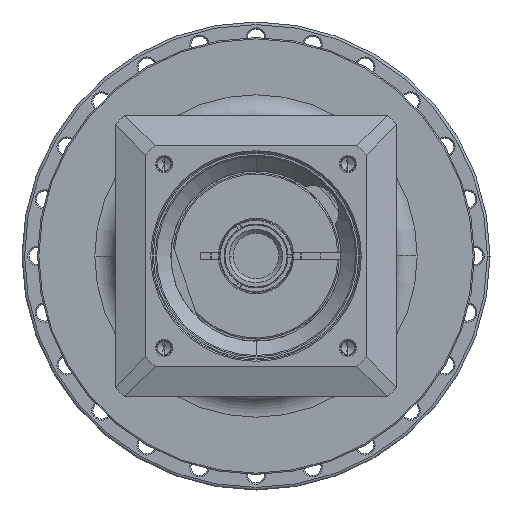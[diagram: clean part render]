
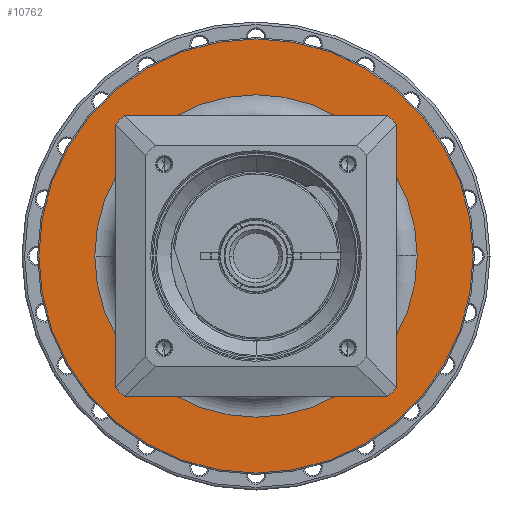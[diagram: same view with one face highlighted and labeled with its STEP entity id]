
A CAD part, left-side view. The second image highlights one B-rep face of the part: STEP entity #10762.
In plain terms, the highlighted planar face has unit normal (-1, 0, 0) as drawn and (1, 0, 0) by its records, which use the part's own axes.
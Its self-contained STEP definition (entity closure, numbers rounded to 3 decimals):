
#10241=CARTESIAN_POINT('',(-19.5,0.,0.));
#10242=DIRECTION('',(-1.,0.,0.));
#10243=DIRECTION('',(0.,-1.,0.));
#10244=AXIS2_PLACEMENT_3D('',#10241,#10242,#10243);
#10246=CARTESIAN_POINT('',(-19.5,0.,0.));
#10247=DIRECTION('',(-1.,0.,0.));
#10248=DIRECTION('',(0.,1.,0.));
#10249=AXIS2_PLACEMENT_3D('',#10246,#10247,#10248);
#10251=CARTESIAN_POINT('',(-19.5,0.,0.));
#10252=DIRECTION('',(-1.,0.,0.));
#10253=DIRECTION('',(0.,-1.,0.));
#10254=AXIS2_PLACEMENT_3D('',#10251,#10252,#10253);
#10256=CARTESIAN_POINT('',(-19.5,0.,0.));
#10257=DIRECTION('',(-1.,0.,0.));
#10258=DIRECTION('',(0.,1.,0.));
#10259=AXIS2_PLACEMENT_3D('',#10256,#10257,#10258);
#10325=CARTESIAN_POINT('',(-19.5,-83.5,0.));
#10326=CARTESIAN_POINT('',(-19.5,83.5,0.));
#10327=VERTEX_POINT('',#10325);
#10328=VERTEX_POINT('',#10326);
#10349=CARTESIAN_POINT('',(-19.5,-62.,0.));
#10350=CARTESIAN_POINT('',(-19.5,62.,0.));
#10351=VERTEX_POINT('',#10349);
#10352=VERTEX_POINT('',#10350);
#10747=CARTESIAN_POINT('',(-19.5,0.,0.));
#10748=DIRECTION('',(1.,0.,0.));
#10749=DIRECTION('',(0.,-1.,0.));
#10750=AXIS2_PLACEMENT_3D('',#10747,#10748,#10749);
#10751=PLANE('',#10750);
#10752=ORIENTED_EDGE('',*,*,#10688,.T.);
#10753=ORIENTED_EDGE('',*,*,#10703,.T.);
#10754=EDGE_LOOP('',(#10752,#10753));
#10755=FACE_OUTER_BOUND('',#10754,.F.);
#10757=ORIENTED_EDGE('',*,*,#10756,.F.);
#10759=ORIENTED_EDGE('',*,*,#10758,.F.);
#10760=EDGE_LOOP('',(#10757,#10759));
#10761=FACE_BOUND('',#10760,.F.);
#10762=ADVANCED_FACE('',(#10755,#10761),#10751,.T.);
#10245=CIRCLE('',#10244,62.);
#10250=CIRCLE('',#10249,62.);
#10255=CIRCLE('',#10254,83.5);
#10260=CIRCLE('',#10259,83.5);
#10688=EDGE_CURVE('',#10327,#10328,#10255,.T.);
#10703=EDGE_CURVE('',#10328,#10327,#10260,.T.);
#10756=EDGE_CURVE('',#10351,#10352,#10245,.T.);
#10758=EDGE_CURVE('',#10352,#10351,#10250,.T.);
